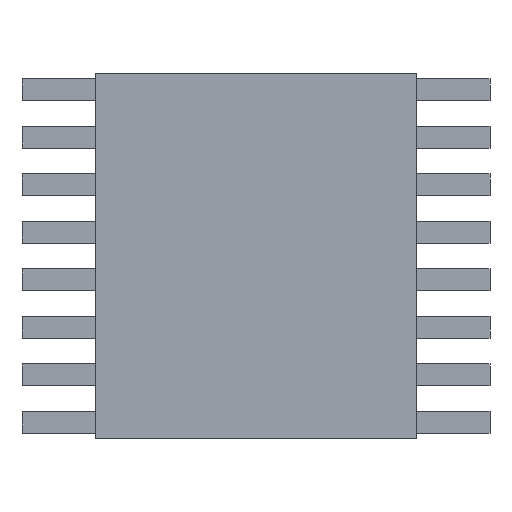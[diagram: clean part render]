
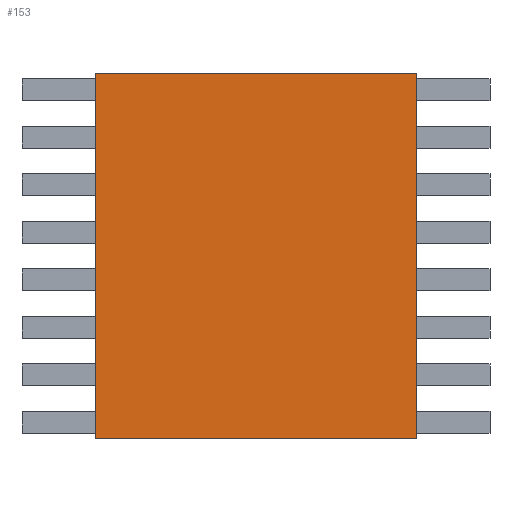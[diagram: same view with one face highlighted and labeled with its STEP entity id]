
A CAD part, top view. The second image highlights one B-rep face of the part: STEP entity #153.
In plain terms, the highlighted planar face has unit normal (0, 0, 1).
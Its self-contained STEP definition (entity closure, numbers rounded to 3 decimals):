
#24 = VERTEX_POINT('',#25);
#25 = CARTESIAN_POINT('',(-2.2,-2.5,1.2));
#40 = VERTEX_POINT('',#41);
#41 = CARTESIAN_POINT('',(-2.2,2.5,1.2));
#47 = EDGE_CURVE('',#24,#40,#48,.T.);
#48 = LINE('',#49,#50);
#49 = CARTESIAN_POINT('',(-2.2,-2.5,1.2));
#50 = VECTOR('',#51,1.);
#51 = DIRECTION('',(-0.,1.,0.));
#64 = VERTEX_POINT('',#65);
#65 = CARTESIAN_POINT('',(2.2,-2.5,1.2));
#80 = VERTEX_POINT('',#81);
#81 = CARTESIAN_POINT('',(2.2,2.5,1.2));
#87 = EDGE_CURVE('',#64,#80,#88,.T.);
#88 = LINE('',#89,#90);
#89 = CARTESIAN_POINT('',(2.2,-2.5,1.2));
#90 = VECTOR('',#91,1.);
#91 = DIRECTION('',(-0.,1.,0.));
#108 = EDGE_CURVE('',#24,#64,#109,.T.);
#109 = LINE('',#110,#111);
#110 = CARTESIAN_POINT('',(-2.2,-2.5,1.2));
#111 = VECTOR('',#112,1.);
#112 = DIRECTION('',(1.,0.,-0.));
#130 = EDGE_CURVE('',#40,#80,#131,.T.);
#131 = LINE('',#132,#133);
#132 = CARTESIAN_POINT('',(-2.2,2.5,1.2));
#133 = VECTOR('',#134,1.);
#134 = DIRECTION('',(1.,0.,-0.));
#153 = ADVANCED_FACE('',(#154),#160,.T.);
#154 = FACE_BOUND('',#155,.T.);
#155 = EDGE_LOOP('',(#156,#157,#158,#159));
#156 = ORIENTED_EDGE('',*,*,#47,.F.);
#157 = ORIENTED_EDGE('',*,*,#108,.T.);
#158 = ORIENTED_EDGE('',*,*,#87,.T.);
#159 = ORIENTED_EDGE('',*,*,#130,.F.);
#160 = PLANE('',#161);
#161 = AXIS2_PLACEMENT_3D('',#162,#163,#164);
#162 = CARTESIAN_POINT('',(-2.2,-2.5,1.2));
#163 = DIRECTION('',(0.,0.,1.));
#164 = DIRECTION('',(1.,0.,-0.));
